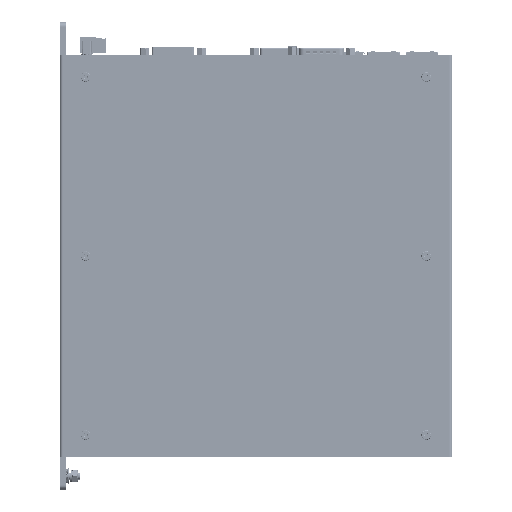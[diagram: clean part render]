
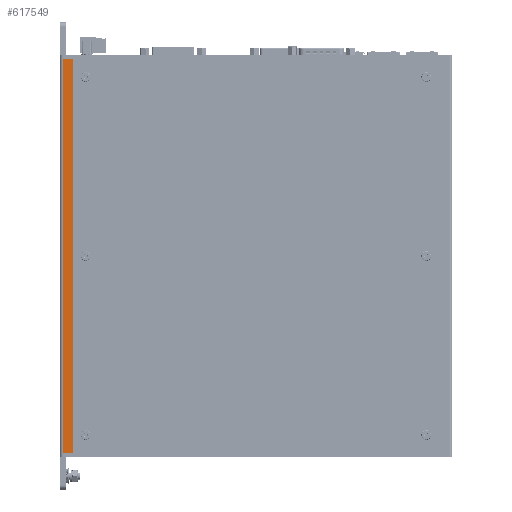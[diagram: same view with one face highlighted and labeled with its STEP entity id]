
A CAD part, front view. The second image highlights one B-rep face of the part: STEP entity #617549.
In plain terms, the highlighted planar face has unit normal (0, -1, 0) as drawn and (-1, 0, 0) by its records, which use the part's own axes.
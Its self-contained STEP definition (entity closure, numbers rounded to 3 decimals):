
#3981 = AXIS2_PLACEMENT_3D ( 'NONE', #393670, #637371, #506559 ) ;
#44026 = VECTOR ( 'NONE', #704269, 1000. ) ;
#89051 = PLANE ( 'NONE',  #3981 ) ;
#94332 = ORIENTED_EDGE ( 'NONE', *, *, #612243, .F. ) ;
#109870 = LINE ( 'NONE', #643833, #44026 ) ;
#127494 = VECTOR ( 'NONE', #625883, 1000. ) ;
#240210 = EDGE_CURVE ( 'NONE', #741131, #261000, #109870, .T. ) ;
#261000 = VERTEX_POINT ( 'NONE', #716256 ) ;
#268226 = EDGE_LOOP ( 'NONE', ( #94332, #360215, #393694, #616962 ) ) ;
#273703 = EDGE_CURVE ( 'NONE', #741131, #611868, #475620, .T. ) ;
#276749 = VECTOR ( 'NONE', #479062, 1000. ) ;
#293797 = FACE_OUTER_BOUND ( 'NONE', #268226, .T. ) ;
#295590 = LINE ( 'NONE', #429139, #276749 ) ;
#360215 = ORIENTED_EDGE ( 'NONE', *, *, #273703, .F. ) ;
#393670 = CARTESIAN_POINT ( 'NONE',  ( -45., -113., -19. ) ) ;
#393694 = ORIENTED_EDGE ( 'NONE', *, *, #240210, .T. ) ;
#419611 = CARTESIAN_POINT ( 'NONE',  ( -45., 113., -2. ) ) ;
#429139 = CARTESIAN_POINT ( 'NONE',  ( -45., 113., -7.5 ) ) ;
#444014 = CARTESIAN_POINT ( 'NONE',  ( -45., -113., -7.5 ) ) ;
#475620 = LINE ( 'NONE', #444014, #588443 ) ;
#479062 = DIRECTION ( 'NONE',  ( 0., 0., 1. ) ) ;
#506559 = DIRECTION ( 'NONE',  ( 0., 0., 1. ) ) ;
#541004 = LINE ( 'NONE', #746579, #127494 ) ;
#551391 = CARTESIAN_POINT ( 'NONE',  ( -45., 113., -7.5 ) ) ;
#571707 = EDGE_CURVE ( 'NONE', #617723, #261000, #541004, .T. ) ;
#588443 = VECTOR ( 'NONE', #745505, 1000. ) ;
#611868 = VERTEX_POINT ( 'NONE', #551391 ) ;
#612243 = EDGE_CURVE ( 'NONE', #611868, #617723, #295590, .T. ) ;
#616962 = ORIENTED_EDGE ( 'NONE', *, *, #571707, .F. ) ;
#617549 = ADVANCED_FACE ( 'NONE', ( #293797 ), #89051, .T. ) ;
#617723 = VERTEX_POINT ( 'NONE', #419611 ) ;
#625883 = DIRECTION ( 'NONE',  ( 0., -1., 0. ) ) ;
#637371 = DIRECTION ( 'NONE',  ( -1., 0., 0. ) ) ;
#643833 = CARTESIAN_POINT ( 'NONE',  ( -45., -113., -7.5 ) ) ;
#675815 = CARTESIAN_POINT ( 'NONE',  ( -45., -113., -7.5 ) ) ;
#704269 = DIRECTION ( 'NONE',  ( 0., 0., 1. ) ) ;
#716256 = CARTESIAN_POINT ( 'NONE',  ( -45., -113., -2. ) ) ;
#741131 = VERTEX_POINT ( 'NONE', #675815 ) ;
#745505 = DIRECTION ( 'NONE',  ( 0., 1., 0. ) ) ;
#746579 = CARTESIAN_POINT ( 'NONE',  ( -45., 113., -2. ) ) ;
